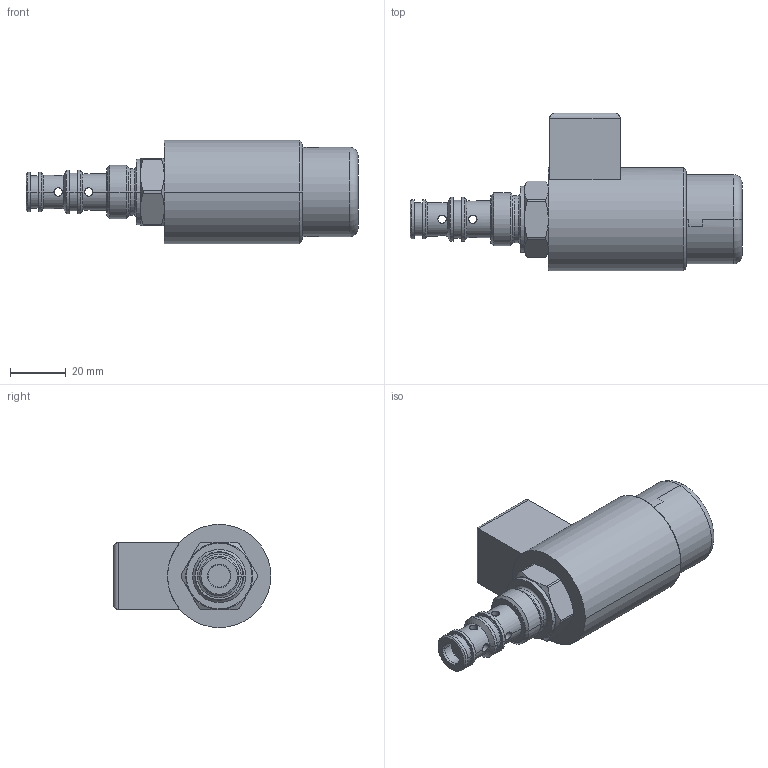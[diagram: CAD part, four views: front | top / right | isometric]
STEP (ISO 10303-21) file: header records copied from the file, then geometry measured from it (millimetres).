
FILE_DESCRIPTION((''),'2;1');
FILE_NAME('SD2E_A3_H','2011-03-14T',('tvatras'),(''),'PRO/ENGINEER BY PARAMETRIC TECHNOLOGY CORPORATION, 2010180','PRO/ENGINEER BY PARAMETRIC TECHNOLOGY CORPORATION, 2010180','');
FILE_SCHEMA(('CONFIG_CONTROL_DESIGN'));
Length unit declared in the file: millimetre
Products named in the file (1): SD2E_A3_H
Bounding box: 118.9 x 56.5 x 37 mm (x, y, z)
Volume: 92603 mm3; surface area: 15596.6 mm2
Topology: 1 solids, 2 shells, 121 faces, 289 edges, 173 vertices
Faces by surface type: cylinder 56, cone 26, plane 23, torus 16
Entity records: 3951 total; most frequent: CARTESIAN_POINT 1079, DIRECTION 624, ORIENTED_EDGE 572, EDGE_CURVE 288, AXIS2_PLACEMENT_3D 264, VERTEX_POINT 171, CIRCLE 141, EDGE_LOOP 135
